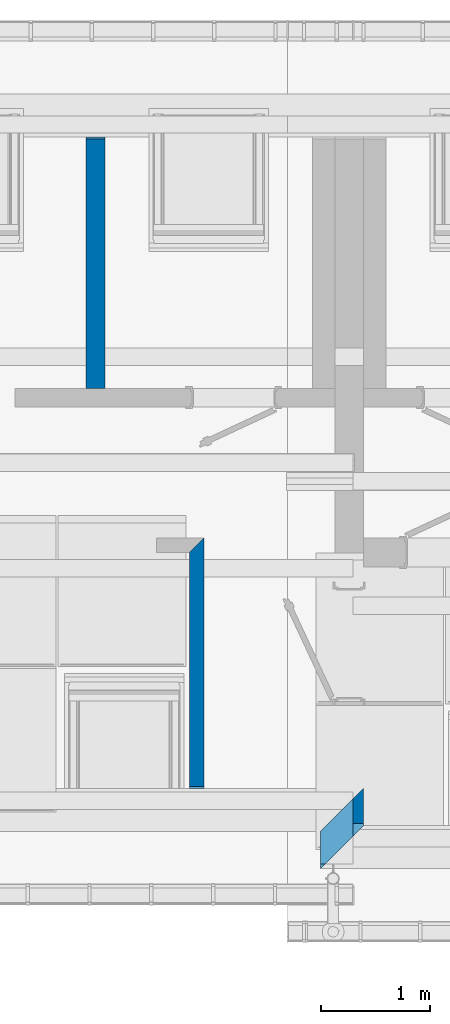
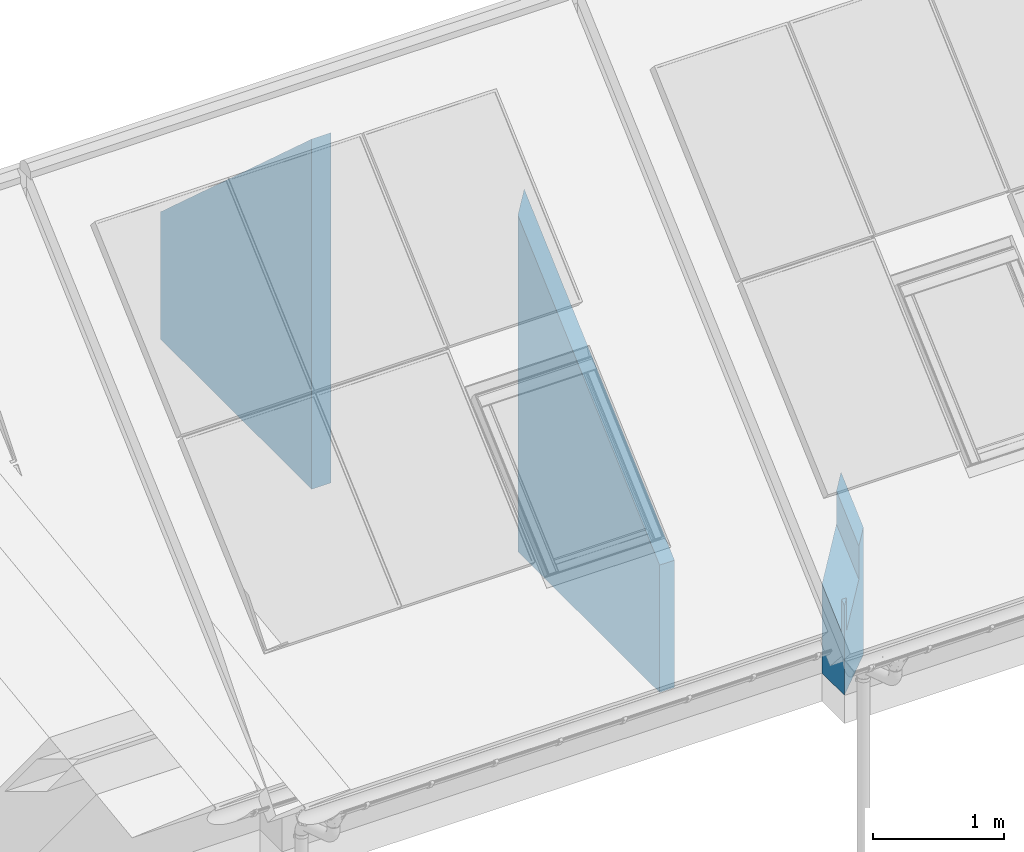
# One storey, part 8 of 43: 3 walls.
"""IFC2X3 building model written with IfcOpenShell, lengths in millimetres."""

import ifcopenshell
import ifcopenshell.guid

model = None  # the IFC model being written
_history = None  # IfcOwnerHistory: only IFC2X3 demands one
_inside = {}  # id of a spatial element -> (the spatial element, [elements in it])
_under = {}  # id of a project, library or spatial element -> (it, [spatial elements below it])
_declared = {}  # id of a project -> (the project, [libraries it declares])
_typed = {}  # id of a type object -> (the type object, [elements of that type])
_made_of = {}  # id of a material, layer set ... -> (it, [elements and type objects made of it])


def new_model(schema):
    """Start an empty IFC model of exactly this schema.

    Asked for "IFC4X3", IfcOpenShell would pick the latest addendum, in which some entities
    have other attributes; the version numbers below select the first issue.
    IFC2X3 requires an IfcOwnerHistory on every rooted entity: one is made here for all.
    """
    global model, _history
    if schema == "IFC4X3":
        model = ifcopenshell.file(schema_version=(4, 3, 0, 0))
    else:
        model = ifcopenshell.file(schema=schema)
    _inside.clear()
    _under.clear()
    _declared.clear()
    _typed.clear()
    _made_of.clear()
    _history = None
    if model.schema == "IFC2X3":
        org = make("IfcOrganization", Name="unknown")
        user = make(
            "IfcPersonAndOrganization",
            ThePerson=make("IfcPerson", FamilyName="unknown"),
            TheOrganization=org,
        )
        app = make(
            "IfcApplication",
            ApplicationDeveloper=org,
            Version="unknown",
            ApplicationFullName="unknown",
            ApplicationIdentifier="unknown",
        )
        _history = make(
            "IfcOwnerHistory",
            OwningUser=user,
            OwningApplication=app,
            ChangeAction="ADDED",
            CreationDate=0,
        )
    return model


def make(cls, **values):
    """One entity of the class cls with the attributes given. An attribute that is None is left unset."""
    return model.create_entity(
        cls, **{name: value for name, value in values.items() if value is not None}
    )


def rooted(cls, **values):
    """An entity with a GlobalId (a new one), such as an element, a storey or a relation."""
    return make(cls, GlobalId=ifcopenshell.guid.new(), OwnerHistory=_history, **values)


def si_unit(unit_type, name, prefix=None):
    """IfcSIUnit, for example si_unit("LENGTHUNIT", "METRE", prefix="MILLI")."""
    return make("IfcSIUnit", UnitType=unit_type, Prefix=prefix, Name=name)


def assignment(units):
    """IfcUnitAssignment: the units of a project."""
    return None if units is None else make("IfcUnitAssignment", Units=units)


def point(xyz):
    """IfcCartesianPoint."""
    return None if xyz is None else make("IfcCartesianPoint", Coordinates=xyz)


def direction(xyz):
    """IfcDirection."""
    return None if xyz is None else make("IfcDirection", DirectionRatios=xyz)


def frame(location, z_axis=None, x_axis=None):
    """IfcAxis2Placement3D, a coordinate frame: its origin and axes. An axis left out is left unset."""
    return make(
        "IfcAxis2Placement3D",
        Location=point(location),
        Axis=direction(z_axis),
        RefDirection=direction(x_axis),
    )


def origin_with_axes():
    """The frame at (0, 0, 0) with the z axis (0, 0, 1) and the x axis (1, 0, 0) written out."""
    return frame((0.0, 0.0, 0.0), z_axis=(0.0, 0.0, 1.0), x_axis=(1.0, 0.0, 0.0))


def place(relative_to, where):
    """IfcLocalPlacement: puts the frame where relative to a parent placement (None: the world)."""
    return make(
        "IfcLocalPlacement", PlacementRelTo=relative_to, RelativePlacement=where
    )


def context(
    kind, dimensions, precision=None, world=None, true_north=None, identifier=None
):
    """IfcGeometricRepresentationContext, for example the 3D "Model" context."""
    return make(
        "IfcGeometricRepresentationContext",
        ContextIdentifier=identifier,
        ContextType=kind,
        CoordinateSpaceDimension=dimensions,
        Precision=precision,
        WorldCoordinateSystem=world,
        TrueNorth=true_north,
    )


def project(units=None, contexts=None):
    """IfcProject with its units and contexts."""
    return rooted(
        "IfcProject",
        Name="project",
        RepresentationContexts=contexts,
        UnitsInContext=assignment(units),
    )


def spatial(cls, under=None, at=None, **own):
    """A site, building, storey or space (cls), placed at a placement, below another one or the project."""
    s = rooted(cls, ObjectPlacement=at, **own)
    if under is not None:
        _under.setdefault(under.id(), (under, []))[1].append(s)
    return s


def faces_of(points, faces, orient=None, outer=None):
    """IfcFace entities. A face is a list of loops; a loop is a list of indices into points, from 0.

    orient and outer hold one flag for each loop. By default every Orientation is true, the
    first loop of a face is its IfcFaceOuterBound and the others are IfcFaceBound.
    """
    made = []
    for i, loops in enumerate(faces):
        bounds = []
        for j, loop in enumerate(loops):
            is_outer = j == 0 if outer is None else outer[i][j]
            bounds.append(
                make(
                    "IfcFaceOuterBound" if is_outer else "IfcFaceBound",
                    Bound=make("IfcPolyLoop", Polygon=[points[k] for k in loop]),
                    Orientation=True if orient is None else orient[i][j],
                )
            )
        made.append(make("IfcFace", Bounds=bounds))
    return made


def faceted_brep(points, faces, orient=None, outer=None, voids=None):
    """IfcFacetedBrep: a solid bounded by flat faces; with voids (closed shells), ...WithVoids."""
    shared = [point(p) for p in points]
    hull = make("IfcClosedShell", CfsFaces=faces_of(shared, faces, orient, outer))
    if voids is None:
        return make("IfcFacetedBrep", Outer=hull)
    return make(
        "IfcFacetedBrepWithVoids",
        Outer=hull,
        Voids=[
            make(cls, CfsFaces=faces_of(shared, fs, o, b)) for cls, fs, o, b in voids
        ],
    )


def shape(context_of_items, identifier, shape_type, items):
    """IfcShapeRepresentation: the items that make up one representation, for example the "Body"."""
    return make(
        "IfcShapeRepresentation",
        ContextOfItems=context_of_items,
        RepresentationIdentifier=identifier,
        RepresentationType=shape_type,
        Items=items,
    )


def material(Name=None, Category=None):
    """IfcMaterial."""
    return make("IfcMaterial", Name=Name, Category=Category)


def layer(
    of_material, thickness, ventilated=None, Name=None, Category=None, Priority=None
):
    """IfcMaterialLayer: one layer of a wall or slab, of a material (None: an air gap)."""
    return make(
        "IfcMaterialLayer",
        Material=of_material,
        LayerThickness=thickness,
        IsVentilated=ventilated,
        Name=Name,
        Category=Category,
        Priority=Priority,
    )


def layer_set(layers, Name=None):
    """IfcMaterialLayerSet."""
    return make("IfcMaterialLayerSet", MaterialLayers=layers, LayerSetName=Name)


def layer_usage(for_layer_set, set_direction, sense, offset, extent=None):
    """IfcMaterialLayerSetUsage: how a layer set lies in its element."""
    return make(
        "IfcMaterialLayerSetUsage",
        ForLayerSet=for_layer_set,
        LayerSetDirection=set_direction,
        DirectionSense=sense,
        OffsetFromReferenceLine=offset,
        ReferenceExtent=extent,
    )


def made_of(thing, what):
    """Note that an element or type object is made of a material, layer set ...; save() writes the relation."""
    if what is not None:
        _made_of.setdefault(what.id(), (what, []))[1].append(thing)
    return thing


def element(
    cls,
    number,
    at=None,
    inside=None,
    cuts=None,
    type_object=None,
    material=None,
    context=None,
    identifier="Body",
    shape_type=None,
    held_by="IfcProductDefinitionShape",
    body=None,
    shapes=None,
    **own,
):
    """One element of the class cls, such as IfcWall. Its Tag is "e" and its number.

    at: its placement. inside: the storey or other place that contains it. cuts: it is an
    opening in that element (IfcRelVoidsElement). A single representation is given by context,
    identifier, shape_type and body (its items); several are given by shapes. held_by: the class
    of the entity that holds the representations. save() writes the other relations.
    """
    e = rooted(cls, Tag="e%d" % number, ObjectPlacement=at, **own)
    if body is not None:
        shapes = [shape(context, identifier, shape_type, body)]
    if shapes is not None:
        e.Representation = make(held_by, Representations=shapes)
    if inside is not None:
        _inside.setdefault(inside.id(), (inside, []))[1].append(e)
    if cuts is not None:
        rooted(
            "IfcRelVoidsElement", RelatingBuildingElement=cuts, RelatedOpeningElement=e
        )
    if type_object is not None:
        _typed.setdefault(type_object.id(), (type_object, []))[1].append(e)
    return made_of(e, material)


def aggregate(whole, parts):
    """IfcRelAggregates: a whole, such as a stair, and the parts it consists of."""
    return rooted("IfcRelAggregates", RelatingObject=whole, RelatedObjects=parts)


def save(model, path):
    """Write the relations noted so far, then the file.

    IfcRelAggregates (storeys below a building ...), IfcRelContainedInSpatialStructure (elements
    in a storey), IfcRelDefinesByType, IfcRelAssociatesMaterial and IfcRelDeclares: one each for
    every whole, place, type object, material and project.
    """
    for whole, parts in _under.values():
        aggregate(whole, parts)
    for where, things in _inside.values():
        rooted(
            "IfcRelContainedInSpatialStructure",
            RelatedElements=things,
            RelatingStructure=where,
        )
    for kind, things in _typed.values():
        rooted("IfcRelDefinesByType", RelatedObjects=things, RelatingType=kind)
    for what, things in _made_of.values():
        rooted("IfcRelAssociatesMaterial", RelatedObjects=things, RelatingMaterial=what)
    for by, libraries in _declared.values():
        rooted("IfcRelDeclares", RelatingContext=by, RelatedDefinitions=libraries)
    model.write(path)


model = new_model("IFC2X3")

# Units and contexts
model_context = context("Model", 3, world=origin_with_axes())
ifc_project = project(units=[si_unit("LENGTHUNIT", "METRE", prefix="MILLI")], contexts=[model_context])

# Site, building, storey
site_placement = place(None, origin_with_axes())
site = spatial("IfcSite", under=ifc_project, at=site_placement, Name="Site", CompositionType="ELEMENT")
building_placement = place(site_placement, origin_with_axes())
building = spatial("IfcBuilding", under=site, at=building_placement, Name="?", CompositionType="ELEMENT")
storey_placement = place(building_placement, frame((0.0, 0.0, 5938.0), z_axis=(0.0, 0.0, 1.0), x_axis=(1.0, 0.0, 0.0)))
storey = spatial("IfcBuildingStorey", under=building, at=storey_placement, Name="Dachgeschoß", CompositionType="ELEMENT", Elevation=5938.0)

# Walls
ifc_material_1 = material(Name="Material_AW")
ifc_layer_1 = layer(ifc_material_1, 395.0, ventilated=False)
ifc_layer_set_1 = layer_set([ifc_layer_1], Name="MaterialLayerSet_AW")
ifc_layer_usage_1 = layer_usage(ifc_layer_set_1, "AXIS2", "NEGATIVE", 197.5)
wall_1_placement = place(storey_placement, frame((9697.5, -6900.5, 0.0), z_axis=(0.0, 0.0, 1.0), x_axis=(0.0, 1.0, 0.0)))
element("IfcWall", 1, at=wall_1_placement, inside=storey, material=ifc_layer_usage_1, Name="AW-26", context=model_context, shape_type="Brep", body=[
    faceted_brep([(539.500007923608, -197.5, 0.0), (539.500007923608, -197.5, 1493.14802333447), (197.5, -197.5, 1185.2097667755), (197.500000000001, -197.5, -6.93516580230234e-32), (144.500007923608, 197.5, 0.0), (144.500007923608, 197.5, 829.549775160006), (444.500007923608, -102.5, 1099.67089145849), (444.500007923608, -102.5, 1407.60968853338), (539.500007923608, -197.5, 1493.14802333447), (539.500007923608, -197.5, 9.46633086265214e-30), (-197.499999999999, 197.5, 0.0), (-197.499999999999, 197.5, 829.549821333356), (-155.5, 197.5, 867.366715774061), (-155.5, 197.5, 559.428703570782), (144.500007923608, 197.5, 829.549775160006), (144.500007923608, 197.5, 1.22191296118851e-31), (197.500000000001, -197.5, -6.31088724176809e-30), (197.5, -197.5, 1185.2097667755), (102.5, -102.5, 1099.67143197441), (102.500000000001, -102.5, 791.732870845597), (-155.5, 155.500000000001, 559.4287108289), (-155.5, 155.500000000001, 867.366715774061), (-197.499999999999, 197.5, 829.549821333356), (-197.499999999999, 197.5, -1.26217744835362e-29), (197.500000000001, -197.5, 0.0), (-197.499999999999, 197.5, 0.0), (144.500007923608, 197.5, 0.0), (539.500007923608, -197.5, 0.0), (-155.5, 197.5, 867.366715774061), (-197.499999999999, 197.5, 829.549821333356), (-155.5, 155.5, 867.366715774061), (102.5, -102.5, 1099.67143197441), (197.5, -197.5, 1185.2097667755), (539.500007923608, -197.5, 1493.14802333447), (444.500007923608, -102.5, 1407.60968853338), (444.500007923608, -102.5, 1099.67089145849), (144.500007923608, 197.5, 829.549775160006), (-155.5, 197.5, 559.428703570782), (-155.5, 155.500000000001, 559.4287108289), (102.500000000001, -102.5, 791.732870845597), (102.500000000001, -102.5, 791.732870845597), (102.5, -102.5, 1099.67143197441), (444.500007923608, -102.5, 1407.60968853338), (444.500007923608, -102.5, 1099.67089145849), (-155.5, 197.5, 559.428703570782), (-155.5, 197.5, 867.366715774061), (-155.5, 155.500000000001, 867.366715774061), (-155.5, 155.500000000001, 559.4287108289)], [[[0, 1, 2, 3]], [[4, 5, 6, 7, 8, 9]], [[10, 11, 12, 13, 14, 15]], [[16, 17, 18, 19, 20, 21, 22, 23]], [[24, 25, 26, 27]], [[28, 29, 30]], [[31, 32, 33, 34]], [[35, 36, 37, 38, 39]], [[40, 41, 42, 43]], [[44, 45, 46, 47]]]),
])
ifc_material_2 = material(Name="Material_IW")
ifc_layer_2 = layer(ifc_material_2, 172.0, ventilated=False)
ifc_layer_set_2 = layer_set([ifc_layer_2], Name="MaterialLayerSet_IW")
ifc_layer_usage_2 = layer_usage(ifc_layer_set_2, "AXIS2", "NEGATIVE", 86.0)
wall_2_placement = place(storey_placement, frame((7439.0, -395.0, 0.0), z_axis=(0.0, 0.0, 1.0), x_axis=(0.0, -1.0, 0.0)))
element("IfcWall", 2, at=wall_2_placement, inside=storey, material=ifc_layer_usage_2, Name="IW-46", context=model_context, shape_type="Brep", body=[
    faceted_brep([(2302.0, -86.0, 0.0), (2302.0, -86.0, 3257.94055999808), (0.0, -86.0, 1185.21000393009), (0.0, -86.0, 0.0), (2302.0, 86.0, 0.0), (2302.0, 86.0, 3257.94055999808), (2302.0, -86.0, 3257.94055999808), (2302.0, -86.0, 0.0), (0.0, 86.0, 0.0), (0.0, 86.0, 1185.21000393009), (2302.0, 86.0, 3257.94055999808), (2302.0, 86.0, 0.0), (0.0, -86.0, 0.0), (0.0, -86.0, 1185.21000393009), (0.0, 86.0, 1185.21000393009), (0.0, 86.0, 0.0), (0.0, -86.0, 0.0), (0.0, 86.0, 0.0), (2302.0, 86.0, 0.0), (2302.0, -86.0, 0.0), (0.0, -86.0, 1185.21000393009), (2302.0, -86.0, 3257.94055999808), (2302.0, 86.0, 3257.94055999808), (0.0, 86.0, 1185.21000393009)], [[[0, 1, 2, 3]], [[4, 5, 6, 7]], [[8, 9, 10, 11]], [[12, 13, 14, 15]], [[16, 17, 18, 19]], [[20, 21, 22, 23]]]),
])
ifc_layer_3 = layer(ifc_material_2, 132.0, ventilated=False)
ifc_layer_set_3 = layer_set([ifc_layer_3], Name="MaterialLayerSet_IW")
ifc_layer_usage_3 = layer_usage(ifc_layer_set_3, "AXIS2", "NEGATIVE", 66.0)
wall_3_placement = place(storey_placement, frame((8365.0, -6361.0, 0.0), z_axis=(0.0, 0.0, 1.0), x_axis=(0.0, 1.0, 0.0)))
element("IfcWall", 3, at=wall_3_placement, inside=storey, material=ifc_layer_usage_3, Name="IW-50", context=model_context, shape_type="Brep", body=[
    faceted_brep([(2291.99986445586, -66.0, 0.0), (2291.99986445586, -66.0, 3248.9355872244), (0.0, -66.0, 1185.20954493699), (0.0, -66.0, 0.0), (2160.00010924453, 66.0, 0.0), (2160.00010924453, 66.0, 3130.08237488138), (2291.99986445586, -65.9999999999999, 3248.9355872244), (2291.99986445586, -65.9999999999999, 0.0), (0.0, 66.0, 0.0), (0.0, 66.0, 1185.20945149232), (2160.00010924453, 66.0, 3130.08237488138), (2160.00010924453, 66.0, 0.0), (0.0, -66.0, 0.0), (0.0, -66.0, 1185.20954493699), (0.0, 66.0, 1185.20945149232), (0.0, 66.0, 0.0), (0.0, -66.0, 0.0), (0.0, 66.0, 0.0), (2160.00010924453, 66.0, 0.0), (2291.99986445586, -66.0, 0.0), (0.0, -66.0, 1185.20954493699), (2291.99986445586, -66.0, 3248.9355872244), (2160.00010924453, 66.0000000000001, 3130.08237488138), (-1.0382804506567e-13, 66.0000000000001, 1185.20945149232)], [[[0, 1, 2, 3]], [[4, 5, 6, 7]], [[8, 9, 10, 11]], [[12, 13, 14, 15]], [[16, 17, 18, 19]], [[20, 21, 22, 23]]]),
])

save(model, "model.ifc")
